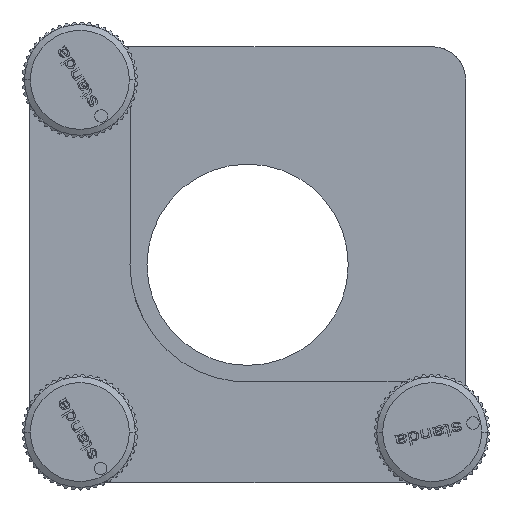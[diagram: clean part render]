
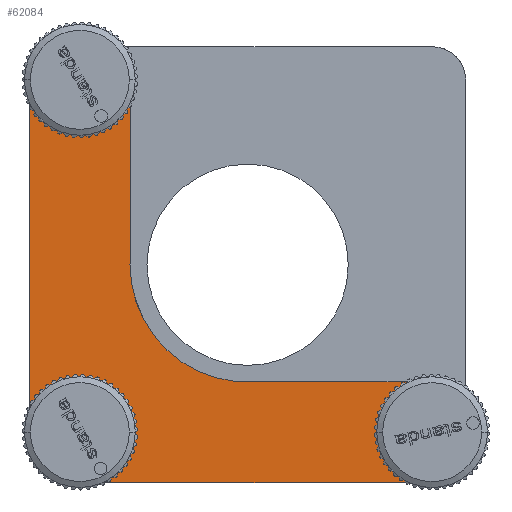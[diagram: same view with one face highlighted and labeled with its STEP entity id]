
A CAD part, top view. The second image highlights one B-rep face of the part: STEP entity #62084.
In plain terms, the highlighted planar face has unit normal (0, 0, 1).
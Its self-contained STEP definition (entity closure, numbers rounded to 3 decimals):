
#3920 = VERTEX_POINT ( 'NONE', #11218 ) ;
#3924 = EDGE_CURVE ( 'NONE', #3940, #3954, #11211, .T. ) ;
#3938 = EDGE_CURVE ( 'NONE', #3939, #3920, #11229, .T. ) ;
#3939 = VERTEX_POINT ( 'NONE', #11224 ) ;
#3940 = VERTEX_POINT ( 'NONE', #11223 ) ;
#3954 = VERTEX_POINT ( 'NONE', #11264 ) ;
#3957 = VERTEX_POINT ( 'NONE', #11262 ) ;
#3959 = EDGE_CURVE ( 'NONE', #3960, #3957, #11261, .T. ) ;
#3960 = VERTEX_POINT ( 'NONE', #11256 ) ;
#11207 = DIRECTION ( 'NONE',  ( 1., 0., 0. ) ) ;
#11208 = DIRECTION ( 'NONE',  ( 0., 0., -1. ) ) ;
#11209 = CARTESIAN_POINT ( 'NONE',  ( 4.926, 5.962, 16. ) ) ;
#11210 = AXIS2_PLACEMENT_3D ( 'NONE', #11209, #11208, #11207 ) ;
#11211 = CIRCLE ( 'NONE', #11210, 4. ) ;
#11218 = CARTESIAN_POINT ( 'NONE',  ( 42.926, 5.962, 16. ) ) ;
#11223 = CARTESIAN_POINT ( 'NONE',  ( 8.926, 5.962, 16. ) ) ;
#11224 = CARTESIAN_POINT ( 'NONE',  ( 50.926, 5.962, 16. ) ) ;
#11225 = DIRECTION ( 'NONE',  ( 1., 0., 0. ) ) ;
#11226 = DIRECTION ( 'NONE',  ( 0., 0., -1. ) ) ;
#11227 = CARTESIAN_POINT ( 'NONE',  ( 46.926, 5.962, 16. ) ) ;
#11228 = AXIS2_PLACEMENT_3D ( 'NONE', #11227, #11226, #11225 ) ;
#11229 = CIRCLE ( 'NONE', #11228, 4. ) ;
#11256 = CARTESIAN_POINT ( 'NONE',  ( 8.926, 47.962, 16. ) ) ;
#11257 = DIRECTION ( 'NONE',  ( 1., 0., 0. ) ) ;
#11258 = DIRECTION ( 'NONE',  ( 0., 0., -1. ) ) ;
#11259 = CARTESIAN_POINT ( 'NONE',  ( 4.926, 47.962, 16. ) ) ;
#11260 = AXIS2_PLACEMENT_3D ( 'NONE', #11259, #11258, #11257 ) ;
#11261 = CIRCLE ( 'NONE', #11260, 4. ) ;
#11262 = CARTESIAN_POINT ( 'NONE',  ( 0.926, 47.962, 16. ) ) ;
#11264 = CARTESIAN_POINT ( 'NONE',  ( 0.926, 5.962, 16. ) ) ;
#32651 = DIRECTION ( 'NONE',  ( 1., 0., 0. ) ) ;
#32652 = DIRECTION ( 'NONE',  ( 0., 0., -1. ) ) ;
#32653 = CARTESIAN_POINT ( 'NONE',  ( 46.926, 5.962, 16. ) ) ;
#32654 = AXIS2_PLACEMENT_3D ( 'NONE', #32653, #32652, #32651 ) ;
#32655 = CIRCLE ( 'NONE', #32654, 4. ) ;
#32668 = DIRECTION ( 'NONE',  ( 1., 0., 0. ) ) ;
#32669 = DIRECTION ( 'NONE',  ( 0., 0., -1. ) ) ;
#32670 = AXIS2_PLACEMENT_3D ( 'NONE', #32676, #32669, #32668 ) ;
#32671 = CIRCLE ( 'NONE', #32670, 4. ) ;
#32676 = CARTESIAN_POINT ( 'NONE',  ( 4.926, 47.962, 16. ) ) ;
#32705 = DIRECTION ( 'NONE',  ( 1., 0., 0. ) ) ;
#32706 = DIRECTION ( 'NONE',  ( 0., 0., -1. ) ) ;
#32707 = AXIS2_PLACEMENT_3D ( 'NONE', #32712, #32706, #32705 ) ;
#32708 = CIRCLE ( 'NONE', #32707, 4. ) ;
#32712 = CARTESIAN_POINT ( 'NONE',  ( 4.926, 5.962, 16. ) ) ;
#32794 = DIRECTION ( 'NONE',  ( 1., 0., 0. ) ) ;
#32795 = DIRECTION ( 'NONE',  ( 0., 0., 1. ) ) ;
#32796 = CARTESIAN_POINT ( 'NONE',  ( 4.926, 26.962, 16. ) ) ;
#32797 = AXIS2_PLACEMENT_3D ( 'NONE', #32796, #32795, #32794 ) ;
#32798 = PLANE ( 'NONE',  #32797 ) ;
#32799 = FACE_OUTER_BOUND ( 'NONE', #62149, .T. ) ;
#32800 = FACE_BOUND ( 'NONE', #62091, .T. ) ;
#32801 = FACE_BOUND ( 'NONE', #62088, .T. ) ;
#32807 = FACE_BOUND ( 'NONE', #62085, .T. ) ;
#32808 = CARTESIAN_POINT ( 'NONE',  ( 10.926, 47.962, 16. ) ) ;
#32809 = DIRECTION ( 'NONE',  ( 0., -1., 0. ) ) ;
#32810 = VECTOR ( 'NONE', #32809, 1000. ) ;
#32811 = CARTESIAN_POINT ( 'NONE',  ( 10.926, 53.962, 16. ) ) ;
#32812 = LINE ( 'NONE', #32811, #32810 ) ;
#32866 = CIRCLE ( 'NONE', #32909, 6. ) ;
#32882 = CIRCLE ( 'NONE', #32948, 6. ) ;
#32888 = CARTESIAN_POINT ( 'NONE',  ( 46.926, 5.962, 16. ) ) ;
#32890 = DIRECTION ( 'NONE',  ( -1., 0., 0. ) ) ;
#32891 = VECTOR ( 'NONE', #32890, 1000. ) ;
#32892 = CARTESIAN_POINT ( 'NONE',  ( 10.926, -0.038, 16. ) ) ;
#32893 = LINE ( 'NONE', #32892, #32891 ) ;
#32894 = CARTESIAN_POINT ( 'NONE',  ( 4.926, -0.038, 16. ) ) ;
#32895 = DIRECTION ( 'NONE',  ( 1., 0., 0. ) ) ;
#32896 = DIRECTION ( 'NONE',  ( 0., 0., -1. ) ) ;
#32897 = CARTESIAN_POINT ( 'NONE',  ( 4.926, 5.962, 16. ) ) ;
#32898 = AXIS2_PLACEMENT_3D ( 'NONE', #32897, #32896, #32895 ) ;
#32899 = CIRCLE ( 'NONE', #32898, 6. ) ;
#32900 = CARTESIAN_POINT ( 'NONE',  ( -1.074, 5.962, 16. ) ) ;
#32901 = DIRECTION ( 'NONE',  ( 0., 1., 0. ) ) ;
#32902 = VECTOR ( 'NONE', #32901, 1000. ) ;
#32903 = CARTESIAN_POINT ( 'NONE',  ( -1.074, -0.038, 16. ) ) ;
#32904 = LINE ( 'NONE', #32903, #32902 ) ;
#32905 = CARTESIAN_POINT ( 'NONE',  ( -1.074, 47.962, 16. ) ) ;
#32906 = DIRECTION ( 'NONE',  ( 1., 0., 0. ) ) ;
#32907 = DIRECTION ( 'NONE',  ( 0., 0., -1. ) ) ;
#32908 = CARTESIAN_POINT ( 'NONE',  ( 4.926, 47.962, 16. ) ) ;
#32909 = AXIS2_PLACEMENT_3D ( 'NONE', #32908, #32907, #32906 ) ;
#32935 = DIRECTION ( 'NONE',  ( -1., 0., 0. ) ) ;
#32936 = DIRECTION ( 'NONE',  ( 0., 0., -1. ) ) ;
#32937 = CARTESIAN_POINT ( 'NONE',  ( 24.926, 25.962, 16. ) ) ;
#32938 = AXIS2_PLACEMENT_3D ( 'NONE', #32937, #32936, #32935 ) ;
#32939 = CIRCLE ( 'NONE', #32938, 14.025 ) ;
#32940 = CARTESIAN_POINT ( 'NONE',  ( 25.763, 11.962, 16. ) ) ;
#32941 = DIRECTION ( 'NONE',  ( 1., 0., 0. ) ) ;
#32942 = VECTOR ( 'NONE', #32941, 1000. ) ;
#32943 = CARTESIAN_POINT ( 'NONE',  ( -1.074, 11.962, 16. ) ) ;
#32944 = LINE ( 'NONE', #32943, #32942 ) ;
#32945 = CARTESIAN_POINT ( 'NONE',  ( 46.926, 11.962, 16. ) ) ;
#32946 = DIRECTION ( 'NONE',  ( 1., 0., 0. ) ) ;
#32947 = DIRECTION ( 'NONE',  ( 0., 0., -1. ) ) ;
#32948 = AXIS2_PLACEMENT_3D ( 'NONE', #32888, #32947, #32946 ) ;
#43278 = CARTESIAN_POINT ( 'NONE',  ( 24.926, 25.962, 16. ) ) ;
#43279 = CIRCLE ( 'NONE', #43329, 14.025 ) ;
#43316 = DIRECTION ( 'NONE',  ( -1., 0., 0. ) ) ;
#43317 = DIRECTION ( 'NONE',  ( 0., 0., -1. ) ) ;
#43329 = AXIS2_PLACEMENT_3D ( 'NONE', #43278, #43317, #43316 ) ;
#43430 = CARTESIAN_POINT ( 'NONE',  ( 10.901, 25.962, 16. ) ) ;
#43551 = CARTESIAN_POINT ( 'NONE',  ( 10.926, 26.799, 16. ) ) ;
#43753 = CARTESIAN_POINT ( 'NONE',  ( 52.926, 5.962, 16. ) ) ;
#43898 = CARTESIAN_POINT ( 'NONE',  ( 46.926, -0.038, 16. ) ) ;
#43946 = CIRCLE ( 'NONE', #43996, 6. ) ;
#43947 = DIRECTION ( 'NONE',  ( 0., 0., -1. ) ) ;
#43948 = CARTESIAN_POINT ( 'NONE',  ( 46.926, 5.962, 16. ) ) ;
#43985 = DIRECTION ( 'NONE',  ( 1., 0., 0. ) ) ;
#43996 = AXIS2_PLACEMENT_3D ( 'NONE', #43948, #43947, #43985 ) ;
#62008 = EDGE_CURVE ( 'NONE', #3957, #3960, #32671, .T. ) ;
#62018 = EDGE_CURVE ( 'NONE', #3920, #3939, #32655, .T. ) ;
#62025 = EDGE_CURVE ( 'NONE', #3954, #3940, #32708, .T. ) ;
#62077 = ORIENTED_EDGE ( 'NONE', *, *, #66481, .T. ) ;
#62078 = ORIENTED_EDGE ( 'NONE', *, *, #62079, .F. ) ;
#62079 = EDGE_CURVE ( 'NONE', #62080, #66568, #32812, .T. ) ;
#62080 = VERTEX_POINT ( 'NONE', #32808 ) ;
#62084 = ADVANCED_FACE ( 'NONE', ( #32807, #32801, #32800, #32799 ), #32798, .T. ) ;
#62085 = EDGE_LOOP ( 'NONE', ( #62086, #62087 ) ) ;
#62086 = ORIENTED_EDGE ( 'NONE', *, *, #3959, .T. ) ;
#62087 = ORIENTED_EDGE ( 'NONE', *, *, #62008, .T. ) ;
#62088 = EDGE_LOOP ( 'NONE', ( #62089, #62090 ) ) ;
#62089 = ORIENTED_EDGE ( 'NONE', *, *, #3924, .T. ) ;
#62090 = ORIENTED_EDGE ( 'NONE', *, *, #62025, .T. ) ;
#62091 = EDGE_LOOP ( 'NONE', ( #62092, #62148 ) ) ;
#62092 = ORIENTED_EDGE ( 'NONE', *, *, #3938, .T. ) ;
#62134 = ORIENTED_EDGE ( 'NONE', *, *, #62135, .F. ) ;
#62135 = EDGE_CURVE ( 'NONE', #62136, #62080, #32866, .T. ) ;
#62136 = VERTEX_POINT ( 'NONE', #32905 ) ;
#62137 = ORIENTED_EDGE ( 'NONE', *, *, #62138, .F. ) ;
#62138 = EDGE_CURVE ( 'NONE', #62139, #62136, #32904, .T. ) ;
#62139 = VERTEX_POINT ( 'NONE', #32900 ) ;
#62140 = ORIENTED_EDGE ( 'NONE', *, *, #62141, .F. ) ;
#62141 = EDGE_CURVE ( 'NONE', #62142, #62139, #32899, .T. ) ;
#62142 = VERTEX_POINT ( 'NONE', #32894 ) ;
#62143 = ORIENTED_EDGE ( 'NONE', *, *, #62144, .F. ) ;
#62144 = EDGE_CURVE ( 'NONE', #66664, #62142, #32893, .T. ) ;
#62145 = ORIENTED_EDGE ( 'NONE', *, *, #66691, .F. ) ;
#62148 = ORIENTED_EDGE ( 'NONE', *, *, #62018, .T. ) ;
#62149 = EDGE_LOOP ( 'NONE', ( #62150, #62153, #62156, #62077, #62078, #62134, #62137, #62140, #62143, #62145 ) ) ;
#62150 = ORIENTED_EDGE ( 'NONE', *, *, #62151, .F. ) ;
#62151 = EDGE_CURVE ( 'NONE', #62152, #66615, #32882, .T. ) ;
#62152 = VERTEX_POINT ( 'NONE', #32945 ) ;
#62153 = ORIENTED_EDGE ( 'NONE', *, *, #62154, .F. ) ;
#62154 = EDGE_CURVE ( 'NONE', #62155, #62152, #32944, .T. ) ;
#62155 = VERTEX_POINT ( 'NONE', #32940 ) ;
#62156 = ORIENTED_EDGE ( 'NONE', *, *, #62157, .T. ) ;
#62157 = EDGE_CURVE ( 'NONE', #62155, #66538, #32939, .T. ) ;
#66481 = EDGE_CURVE ( 'NONE', #66538, #66568, #43279, .T. ) ;
#66538 = VERTEX_POINT ( 'NONE', #43430 ) ;
#66568 = VERTEX_POINT ( 'NONE', #43551 ) ;
#66615 = VERTEX_POINT ( 'NONE', #43753 ) ;
#66664 = VERTEX_POINT ( 'NONE', #43898 ) ;
#66691 = EDGE_CURVE ( 'NONE', #66615, #66664, #43946, .T. ) ;
